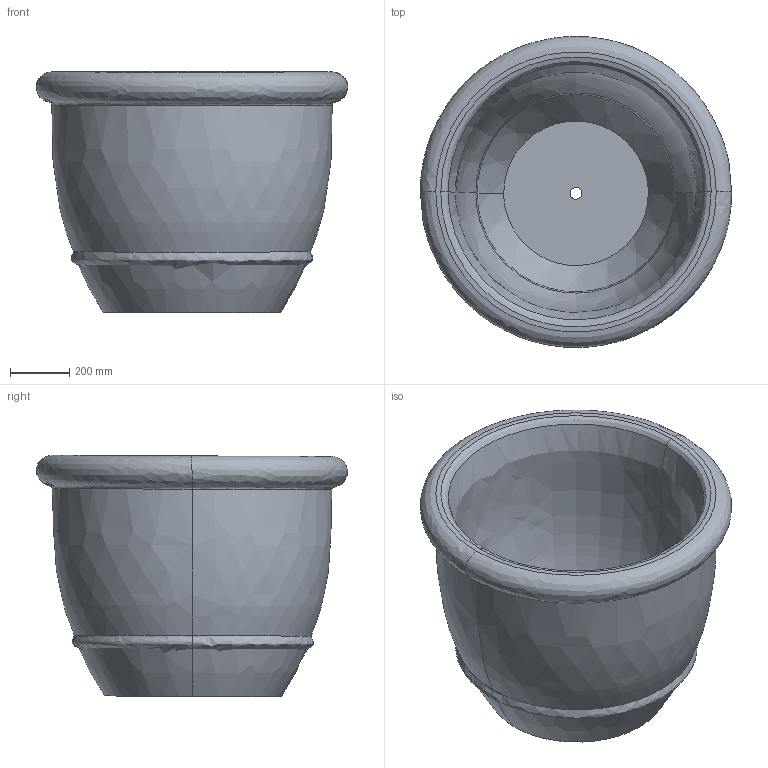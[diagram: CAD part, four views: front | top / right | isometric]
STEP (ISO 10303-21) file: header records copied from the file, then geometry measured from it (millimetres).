
FILE_DESCRIPTION(/* description */ (''),/* implementation_level */ '2;1');
FILE_NAME(/* name */ '105',/* time_stamp */ '2026-07-06T15:41:16+02:00',/* author */ (''),/* organization */ (''),/* preprocessor_version */ 'ST-DEVELOPER v19.2',/* originating_system */ 'Rhino 8.32',/* authorisation */ '');
FILE_SCHEMA (('CONFIG_CONTROL_DESIGN'));
Length unit declared in the file: millimetre
Products named in the file (1): Document
Bounding box: 1050.03 x 1048.79 x 813.67 mm (x, y, z)
Volume: 151168859.4 mm3; surface area: 4957859.8 mm2
Topology: 1 solids, 1 shells, 19 faces, 38 edges, 22 vertices
Faces by surface type: bspline 14, plane 3, cylinder 2
Entity records: 1221 total; most frequent: CARTESIAN_POINT 911, ORIENTED_EDGE 76, EDGE_CURVE 38, EDGE_LOOP 22, VERTEX_POINT 22, ADVANCED_FACE 19, FACE_OUTER_BOUND 19, DIRECTION 9
